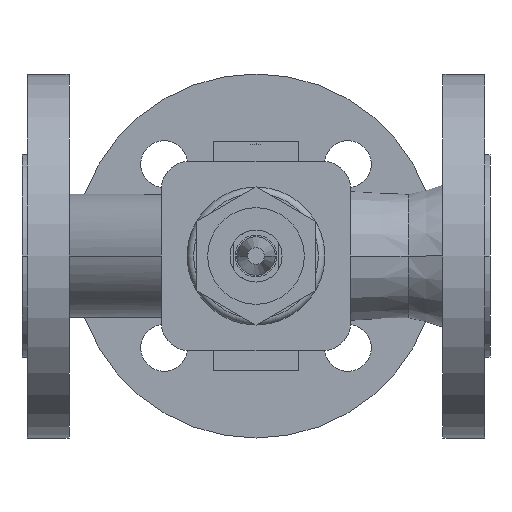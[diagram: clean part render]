
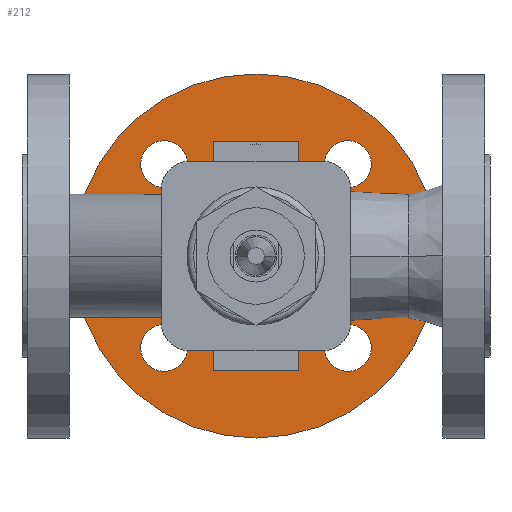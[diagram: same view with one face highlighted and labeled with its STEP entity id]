
A CAD part, front view. The second image highlights one B-rep face of the part: STEP entity #212.
In plain terms, the highlighted planar face has unit normal (0, -1, 0).
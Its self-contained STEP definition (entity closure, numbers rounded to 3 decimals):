
#212 = ADVANCED_FACE( '', ( #528, #529, #530, #531, #532, #533 ), #534, .T. );
#528 = FACE_OUTER_BOUND( '', #854, .T. );
#529 = FACE_BOUND( '', #855, .T. );
#530 = FACE_BOUND( '', #856, .T. );
#531 = FACE_BOUND( '', #857, .T. );
#532 = FACE_BOUND( '', #858, .T. );
#533 = FACE_BOUND( '', #859, .T. );
#534 = PLANE( '', #860 );
#854 = EDGE_LOOP( '', ( #1943, #1944 ) );
#855 = EDGE_LOOP( '', ( #1945, #1946 ) );
#856 = EDGE_LOOP( '', ( #1947, #1948 ) );
#857 = EDGE_LOOP( '', ( #1949, #1950 ) );
#858 = EDGE_LOOP( '', ( #1951, #1952 ) );
#859 = EDGE_LOOP( '', ( #1953, #1954 ) );
#860 = AXIS2_PLACEMENT_3D( '', #1955, #1956, #1957 );
#1943 = ORIENTED_EDGE( '', *, *, #2342, .F. );
#1944 = ORIENTED_EDGE( '', *, *, #2008, .F. );
#1945 = ORIENTED_EDGE( '', *, *, #2341, .F. );
#1946 = ORIENTED_EDGE( '', *, *, #2012, .F. );
#1947 = ORIENTED_EDGE( '', *, *, #2340, .F. );
#1948 = ORIENTED_EDGE( '', *, *, #2016, .F. );
#1949 = ORIENTED_EDGE( '', *, *, #2339, .F. );
#1950 = ORIENTED_EDGE( '', *, *, #2020, .F. );
#1951 = ORIENTED_EDGE( '', *, *, #2338, .F. );
#1952 = ORIENTED_EDGE( '', *, *, #2024, .F. );
#1953 = ORIENTED_EDGE( '', *, *, #2041, .F. );
#1954 = ORIENTED_EDGE( '', *, *, #2284, .F. );
#1955 = CARTESIAN_POINT( '', ( 55., 61.4, 0. ) );
#1956 = DIRECTION( '', ( 0., -1., 0. ) );
#1957 = DIRECTION( '', ( -1., 0., 0. ) );
#2008 = EDGE_CURVE( '', #2372, #2368, #2374, .T. );
#2012 = EDGE_CURVE( '', #2380, #2376, #2382, .T. );
#2016 = EDGE_CURVE( '', #2388, #2384, #2390, .T. );
#2020 = EDGE_CURVE( '', #2396, #2392, #2398, .T. );
#2024 = EDGE_CURVE( '', #2404, #2400, #2406, .T. );
#2041 = EDGE_CURVE( '', #2436, #2439, #2440, .T. );
#2284 = EDGE_CURVE( '', #2439, #2436, #2839, .T. );
#2338 = EDGE_CURVE( '', #2400, #2404, #2921, .T. );
#2339 = EDGE_CURVE( '', #2392, #2396, #2922, .T. );
#2340 = EDGE_CURVE( '', #2384, #2388, #2923, .T. );
#2341 = EDGE_CURVE( '', #2376, #2380, #2924, .T. );
#2342 = EDGE_CURVE( '', #2368, #2372, #2925, .T. );
#2368 = VERTEX_POINT( '', #3055 );
#2372 = VERTEX_POINT( '', #3060 );
#2374 = CIRCLE( '', #3063, 70. );
#2376 = VERTEX_POINT( '', #3065 );
#2380 = VERTEX_POINT( '', #3070 );
#2382 = CIRCLE( '', #3073, 9. );
#2384 = VERTEX_POINT( '', #3075 );
#2388 = VERTEX_POINT( '', #3080 );
#2390 = CIRCLE( '', #3083, 9. );
#2392 = VERTEX_POINT( '', #3085 );
#2396 = VERTEX_POINT( '', #3090 );
#2398 = CIRCLE( '', #3093, 9. );
#2400 = VERTEX_POINT( '', #3095 );
#2404 = VERTEX_POINT( '', #3100 );
#2406 = CIRCLE( '', #3103, 9. );
#2436 = VERTEX_POINT( '', #3185 );
#2439 = VERTEX_POINT( '', #3189 );
#2440 = CIRCLE( '', #3190, 31. );
#2839 = CIRCLE( '', #3904, 31. );
#2921 = CIRCLE( '', #4052, 9. );
#2922 = CIRCLE( '', #4053, 9. );
#2923 = CIRCLE( '', #4054, 9. );
#2924 = CIRCLE( '', #4055, 9. );
#2925 = CIRCLE( '', #4056, 70. );
#3055 = CARTESIAN_POINT( '', ( 160., 61.4, 0. ) );
#3060 = CARTESIAN_POINT( '', ( 20., 61.4, 0. ) );
#3063 = AXIS2_PLACEMENT_3D( '', #4083, #4084, #4085 );
#3065 = CARTESIAN_POINT( '', ( 134.355, 61.4, 35.355 ) );
#3070 = CARTESIAN_POINT( '', ( 116.355, 61.4, 35.355 ) );
#3073 = AXIS2_PLACEMENT_3D( '', #4091, #4092, #4093 );
#3075 = CARTESIAN_POINT( '', ( 134.355, 61.4, -35.355 ) );
#3080 = CARTESIAN_POINT( '', ( 116.355, 61.4, -35.355 ) );
#3083 = AXIS2_PLACEMENT_3D( '', #4099, #4100, #4101 );
#3085 = CARTESIAN_POINT( '', ( 63.645, 61.4, -35.355 ) );
#3090 = CARTESIAN_POINT( '', ( 45.645, 61.4, -35.355 ) );
#3093 = AXIS2_PLACEMENT_3D( '', #4107, #4108, #4109 );
#3095 = CARTESIAN_POINT( '', ( 63.645, 61.4, 35.355 ) );
#3100 = CARTESIAN_POINT( '', ( 45.645, 61.4, 35.355 ) );
#3103 = AXIS2_PLACEMENT_3D( '', #4115, #4116, #4117 );
#3185 = CARTESIAN_POINT( '', ( 59., 61.4, 0. ) );
#3189 = CARTESIAN_POINT( '', ( 121., 61.4, 0. ) );
#3190 = AXIS2_PLACEMENT_3D( '', #4152, #4153, #4154 );
#3904 = AXIS2_PLACEMENT_3D( '', #4641, #4642, #4643 );
#4052 = AXIS2_PLACEMENT_3D( '', #4717, #4718, #4719 );
#4053 = AXIS2_PLACEMENT_3D( '', #4720, #4721, #4722 );
#4054 = AXIS2_PLACEMENT_3D( '', #4723, #4724, #4725 );
#4055 = AXIS2_PLACEMENT_3D( '', #4726, #4727, #4728 );
#4056 = AXIS2_PLACEMENT_3D( '', #4729, #4730, #4731 );
#4083 = CARTESIAN_POINT( '', ( 90., 61.4, 0. ) );
#4084 = DIRECTION( '', ( 0., 1., 0. ) );
#4085 = DIRECTION( '', ( 1., 0., 0. ) );
#4091 = CARTESIAN_POINT( '', ( 125.355, 61.4, 35.355 ) );
#4092 = DIRECTION( '', ( 0., -1., 0. ) );
#4093 = DIRECTION( '', ( 1., 0., 0. ) );
#4099 = CARTESIAN_POINT( '', ( 125.355, 61.4, -35.355 ) );
#4100 = DIRECTION( '', ( 0., -1., 0. ) );
#4101 = DIRECTION( '', ( 1., 0., 0. ) );
#4107 = CARTESIAN_POINT( '', ( 54.645, 61.4, -35.355 ) );
#4108 = DIRECTION( '', ( 0., -1., 0. ) );
#4109 = DIRECTION( '', ( 1., 0., 0. ) );
#4115 = CARTESIAN_POINT( '', ( 54.645, 61.4, 35.355 ) );
#4116 = DIRECTION( '', ( 0., -1., 0. ) );
#4117 = DIRECTION( '', ( 1., 0., 0. ) );
#4152 = CARTESIAN_POINT( '', ( 90., 61.4, 0. ) );
#4153 = DIRECTION( '', ( 0., -1., 0. ) );
#4154 = DIRECTION( '', ( -1., 0., 0. ) );
#4641 = CARTESIAN_POINT( '', ( 90., 61.4, 0. ) );
#4642 = DIRECTION( '', ( 0., -1., 0. ) );
#4643 = DIRECTION( '', ( -1., 0., 0. ) );
#4717 = CARTESIAN_POINT( '', ( 54.645, 61.4, 35.355 ) );
#4718 = DIRECTION( '', ( 0., -1., 0. ) );
#4719 = DIRECTION( '', ( 1., 0., 0. ) );
#4720 = CARTESIAN_POINT( '', ( 54.645, 61.4, -35.355 ) );
#4721 = DIRECTION( '', ( 0., -1., 0. ) );
#4722 = DIRECTION( '', ( 1., 0., 0. ) );
#4723 = CARTESIAN_POINT( '', ( 125.355, 61.4, -35.355 ) );
#4724 = DIRECTION( '', ( 0., -1., 0. ) );
#4725 = DIRECTION( '', ( 1., 0., 0. ) );
#4726 = CARTESIAN_POINT( '', ( 125.355, 61.4, 35.355 ) );
#4727 = DIRECTION( '', ( 0., -1., 0. ) );
#4728 = DIRECTION( '', ( 1., 0., 0. ) );
#4729 = CARTESIAN_POINT( '', ( 90., 61.4, 0. ) );
#4730 = DIRECTION( '', ( 0., 1., 0. ) );
#4731 = DIRECTION( '', ( 1., 0., 0. ) );
